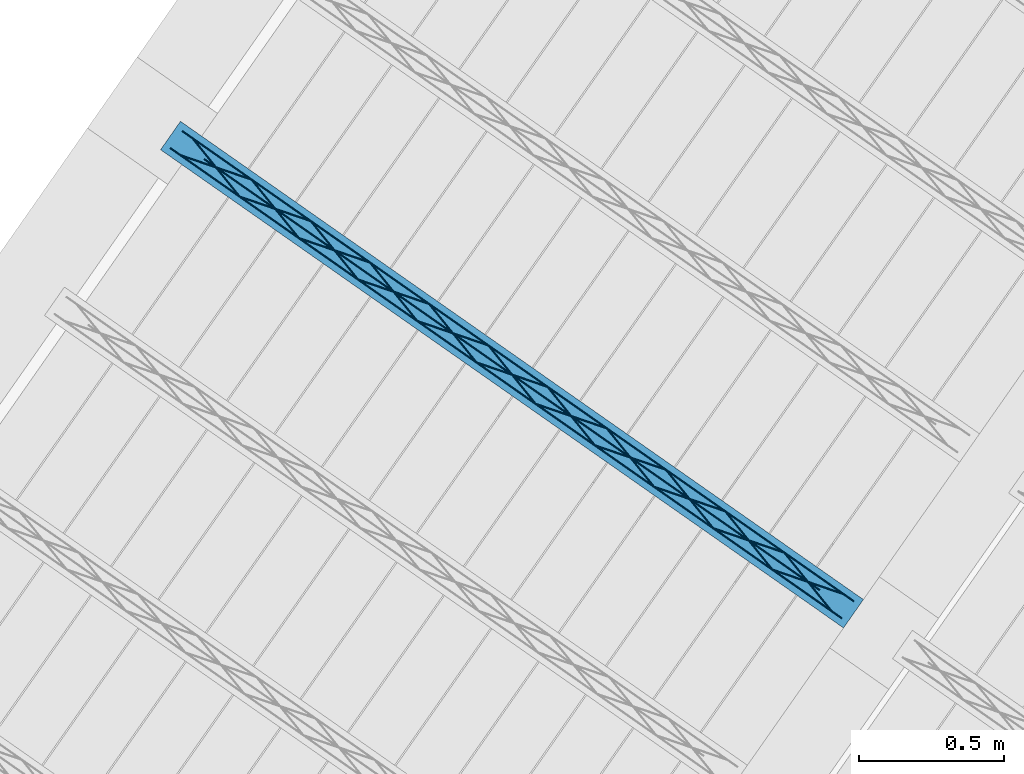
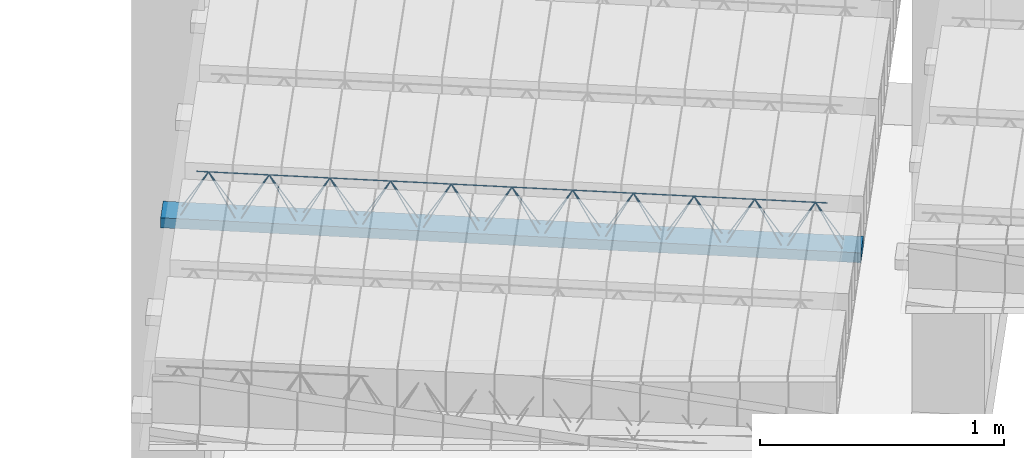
# One storey, part 28 of 80: 1 beam, 1 member.
"""IFC2X3 building model written with IfcOpenShell, lengths in metres."""

import ifcopenshell
import ifcopenshell.guid

model = None  # the IFC model being written
_history = None  # IfcOwnerHistory: only IFC2X3 demands one
_inside = {}  # id of a spatial element -> (the spatial element, [elements in it])
_under = {}  # id of a project, library or spatial element -> (it, [spatial elements below it])
_declared = {}  # id of a project -> (the project, [libraries it declares])
_typed = {}  # id of a type object -> (the type object, [elements of that type])
_made_of = {}  # id of a material, layer set ... -> (it, [elements and type objects made of it])


def new_model(schema):
    """Start an empty IFC model of exactly this schema.

    Asked for "IFC4X3", IfcOpenShell would pick the latest addendum, in which some entities
    have other attributes; the version numbers below select the first issue.
    IFC2X3 requires an IfcOwnerHistory on every rooted entity: one is made here for all.
    """
    global model, _history
    if schema == "IFC4X3":
        model = ifcopenshell.file(schema_version=(4, 3, 0, 0))
    else:
        model = ifcopenshell.file(schema=schema)
    _inside.clear()
    _under.clear()
    _declared.clear()
    _typed.clear()
    _made_of.clear()
    _history = None
    if model.schema == "IFC2X3":
        org = make("IfcOrganization", Name="unknown")
        user = make(
            "IfcPersonAndOrganization",
            ThePerson=make("IfcPerson", FamilyName="unknown"),
            TheOrganization=org,
        )
        app = make(
            "IfcApplication",
            ApplicationDeveloper=org,
            Version="unknown",
            ApplicationFullName="unknown",
            ApplicationIdentifier="unknown",
        )
        _history = make(
            "IfcOwnerHistory",
            OwningUser=user,
            OwningApplication=app,
            ChangeAction="ADDED",
            CreationDate=0,
        )
    return model


def make(cls, **values):
    """One entity of the class cls with the attributes given. An attribute that is None is left unset."""
    return model.create_entity(
        cls, **{name: value for name, value in values.items() if value is not None}
    )


def entity(cls, *values):
    """Any entity or typed value of the class cls, its attributes in the order of the schema. None: left unset."""
    e = model.create_entity(cls)
    for i, value in enumerate(values):
        if value is not None:
            e[i] = value
    return e


def rooted(cls, **values):
    """An entity with a GlobalId (a new one), such as an element, a storey or a relation."""
    return make(cls, GlobalId=ifcopenshell.guid.new(), OwnerHistory=_history, **values)


def si_unit(unit_type, name, prefix=None):
    """IfcSIUnit, for example si_unit("LENGTHUNIT", "METRE", prefix="MILLI")."""
    return make("IfcSIUnit", UnitType=unit_type, Prefix=prefix, Name=name)


def converted_unit(unit_type, name, factor, base, dimensions=None, offset=None):
    """IfcConversionBasedUnit, such as the inch: factor (a typed value) times the base unit."""
    return make(
        "IfcConversionBasedUnit"
        if offset is None
        else "IfcConversionBasedUnitWithOffset",
        ConversionOffset=offset,
        Dimensions=None
        if dimensions is None
        else entity("IfcDimensionalExponents", *dimensions),
        UnitType=unit_type,
        Name=name,
        ConversionFactor=make(
            "IfcMeasureWithUnit", ValueComponent=factor, UnitComponent=base
        ),
    )


def derived_unit(unit_type, elements):
    """IfcDerivedUnit: a product of units, each with its exponent."""
    return make(
        "IfcDerivedUnit",
        Elements=[
            make("IfcDerivedUnitElement", Unit=unit, Exponent=power)
            for unit, power in elements
        ],
        UnitType=unit_type,
    )


def assignment(units):
    """IfcUnitAssignment: the units of a project."""
    return None if units is None else make("IfcUnitAssignment", Units=units)


def point(xyz):
    """IfcCartesianPoint."""
    return None if xyz is None else make("IfcCartesianPoint", Coordinates=xyz)


def direction(xyz):
    """IfcDirection."""
    return None if xyz is None else make("IfcDirection", DirectionRatios=xyz)


def frame(location, z_axis=None, x_axis=None):
    """IfcAxis2Placement3D, a coordinate frame: its origin and axes. An axis left out is left unset."""
    return make(
        "IfcAxis2Placement3D",
        Location=point(location),
        Axis=direction(z_axis),
        RefDirection=direction(x_axis),
    )


def frame_2d(location, x_axis=None):
    """IfcAxis2Placement2D, a coordinate frame in the plane: its origin and x axis."""
    return make(
        "IfcAxis2Placement2D", Location=point(location), RefDirection=direction(x_axis)
    )


def origin():
    """The frame at (0, 0, 0) with its axes left unset."""
    return frame((0.0, 0.0, 0.0))


def origin_2d_with_axis():
    """The frame at (0, 0) in the plane with the x axis (1, 0) written out."""
    return frame_2d((0.0, 0.0), x_axis=(1.0, 0.0))


def place(relative_to, where):
    """IfcLocalPlacement: puts the frame where relative to a parent placement (None: the world)."""
    return make(
        "IfcLocalPlacement", PlacementRelTo=relative_to, RelativePlacement=where
    )


def context(
    kind, dimensions, precision=None, world=None, true_north=None, identifier=None
):
    """IfcGeometricRepresentationContext, for example the 3D "Model" context."""
    return make(
        "IfcGeometricRepresentationContext",
        ContextIdentifier=identifier,
        ContextType=kind,
        CoordinateSpaceDimension=dimensions,
        Precision=precision,
        WorldCoordinateSystem=world,
        TrueNorth=true_north,
    )


def subcontext(parent, identifier, kind, view, scale=None):
    """IfcGeometricRepresentationSubContext, for example "Body" below "Model"."""
    return make(
        "IfcGeometricRepresentationSubContext",
        ContextIdentifier=identifier,
        ContextType=kind,
        ParentContext=parent,
        TargetScale=scale,
        TargetView=view,
    )


def project(units=None, contexts=None):
    """IfcProject with its units and contexts."""
    return rooted(
        "IfcProject",
        Name="project",
        RepresentationContexts=contexts,
        UnitsInContext=assignment(units),
    )


def spatial(cls, under=None, at=None, **own):
    """A site, building, storey or space (cls), placed at a placement, below another one or the project."""
    s = rooted(cls, ObjectPlacement=at, **own)
    if under is not None:
        _under.setdefault(under.id(), (under, []))[1].append(s)
    return s


def profile(cls, at=None, kind="AREA", **sizes):
    """A parametric profile (cls). Its sizes go by their IFC names, for example OverallWidth=200.0."""
    return make(cls, ProfileType=kind, Position=at, **sizes)


def rectangle(**sizes):
    """IfcRectangleProfileDef."""
    return profile("IfcRectangleProfileDef", **sizes)


def circle(**sizes):
    """IfcCircleProfileDef."""
    return profile("IfcCircleProfileDef", **sizes)


def extrude(swept, where, along, depth):
    """IfcExtrudedAreaSolid: the profile swept, set in the frame where, extruded along a direction by depth."""
    return make(
        "IfcExtrudedAreaSolid",
        SweptArea=swept,
        Position=where,
        ExtrudedDirection=direction(along),
        Depth=depth,
    )


def shape(context_of_items, identifier, shape_type, items):
    """IfcShapeRepresentation: the items that make up one representation, for example the "Body"."""
    return make(
        "IfcShapeRepresentation",
        ContextOfItems=context_of_items,
        RepresentationIdentifier=identifier,
        RepresentationType=shape_type,
        Items=items,
    )


def material(Name=None, Category=None):
    """IfcMaterial."""
    return make("IfcMaterial", Name=Name, Category=Category)


def made_of(thing, what):
    """Note that an element or type object is made of a material, layer set ...; save() writes the relation."""
    if what is not None:
        _made_of.setdefault(what.id(), (what, []))[1].append(thing)
    return thing


def type_object(cls, material=None, **own):
    """A type object (cls), such as IfcWallType, which elements share."""
    return made_of(rooted(cls, **own), material)


def element(
    cls,
    number,
    at=None,
    inside=None,
    cuts=None,
    type_object=None,
    material=None,
    context=None,
    identifier="Body",
    shape_type=None,
    held_by="IfcProductDefinitionShape",
    body=None,
    shapes=None,
    **own,
):
    """One element of the class cls, such as IfcWall. Its Tag is "e" and its number.

    at: its placement. inside: the storey or other place that contains it. cuts: it is an
    opening in that element (IfcRelVoidsElement). A single representation is given by context,
    identifier, shape_type and body (its items); several are given by shapes. held_by: the class
    of the entity that holds the representations. save() writes the other relations.
    """
    e = rooted(cls, Tag="e%d" % number, ObjectPlacement=at, **own)
    if body is not None:
        shapes = [shape(context, identifier, shape_type, body)]
    if shapes is not None:
        e.Representation = make(held_by, Representations=shapes)
    if inside is not None:
        _inside.setdefault(inside.id(), (inside, []))[1].append(e)
    if cuts is not None:
        rooted(
            "IfcRelVoidsElement", RelatingBuildingElement=cuts, RelatedOpeningElement=e
        )
    if type_object is not None:
        _typed.setdefault(type_object.id(), (type_object, []))[1].append(e)
    return made_of(e, material)


def aggregate(whole, parts):
    """IfcRelAggregates: a whole, such as a stair, and the parts it consists of."""
    return rooted("IfcRelAggregates", RelatingObject=whole, RelatedObjects=parts)


def save(model, path):
    """Write the relations noted so far, then the file.

    IfcRelAggregates (storeys below a building ...), IfcRelContainedInSpatialStructure (elements
    in a storey), IfcRelDefinesByType, IfcRelAssociatesMaterial and IfcRelDeclares: one each for
    every whole, place, type object, material and project.
    """
    for whole, parts in _under.values():
        aggregate(whole, parts)
    for where, things in _inside.values():
        rooted(
            "IfcRelContainedInSpatialStructure",
            RelatedElements=things,
            RelatingStructure=where,
        )
    for kind, things in _typed.values():
        rooted("IfcRelDefinesByType", RelatedObjects=things, RelatingType=kind)
    for what, things in _made_of.values():
        rooted("IfcRelAssociatesMaterial", RelatedObjects=things, RelatingMaterial=what)
    for by, libraries in _declared.values():
        rooted("IfcRelDeclares", RelatingContext=by, RelatedDefinitions=libraries)
    model.write(path)


model = new_model("IFC2X3")

# Units and contexts
model_context = context("Model", 3, precision=1e-05, world=origin(), true_north=direction((6.123031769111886e-17, 1.0)))
body_context = subcontext(model_context, "Body", "Model", "MODEL_VIEW")
ifc_project = project(units=[si_unit("LENGTHUNIT", "METRE"), si_unit("AREAUNIT", "SQUARE_METRE"), si_unit("VOLUMEUNIT", "CUBIC_METRE"), converted_unit("PLANEANGLEUNIT", "DEGREE", entity("IfcPlaneAngleMeasure", 0.017453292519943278), si_unit("PLANEANGLEUNIT", "RADIAN"), dimensions=[0, 0, 0, 0, 0, 0, 0]), si_unit("MASSUNIT", "GRAM", prefix="KILO"), derived_unit("MASSDENSITYUNIT", [(si_unit("MASSUNIT", "GRAM", prefix="KILO"), 1), (si_unit("LENGTHUNIT", "METRE"), -3)]), derived_unit("IONCONCENTRATIONUNIT", [(si_unit("MASSUNIT", "GRAM", prefix="KILO"), 1), (si_unit("LENGTHUNIT", "METRE"), -3)]), derived_unit("MOMENTOFINERTIAUNIT", [(si_unit("LENGTHUNIT", "METRE"), 4)]), si_unit("TIMEUNIT", "SECOND"), si_unit("FREQUENCYUNIT", "HERTZ"), si_unit("THERMODYNAMICTEMPERATUREUNIT", "DEGREE_CELSIUS"), derived_unit("THERMALTRANSMITTANCEUNIT", [(si_unit("MASSUNIT", "GRAM", prefix="KILO"), 1), (si_unit("THERMODYNAMICTEMPERATUREUNIT", "KELVIN"), -1), (si_unit("TIMEUNIT", "SECOND"), -3)]), derived_unit("THERMALCONDUCTANCEUNIT", [(si_unit("MASSUNIT", "GRAM", prefix="KILO"), 1), (si_unit("THERMODYNAMICTEMPERATUREUNIT", "KELVIN"), -1), (si_unit("TIMEUNIT", "SECOND"), -3), (si_unit("LENGTHUNIT", "METRE"), 1)]), derived_unit("VOLUMETRICFLOWRATEUNIT", [(si_unit("LENGTHUNIT", "METRE", prefix="DECI"), 3), (si_unit("TIMEUNIT", "SECOND"), -1)]), derived_unit("MASSFLOWRATEUNIT", [(si_unit("MASSUNIT", "GRAM", prefix="KILO"), 1), (si_unit("TIMEUNIT", "SECOND"), -1)]), derived_unit("ROTATIONALFREQUENCYUNIT", [(si_unit("TIMEUNIT", "SECOND"), -1)]), si_unit("ELECTRICCURRENTUNIT", "AMPERE"), si_unit("ELECTRICVOLTAGEUNIT", "VOLT"), si_unit("POWERUNIT", "WATT"), si_unit("FORCEUNIT", "NEWTON", prefix="KILO"), si_unit("ILLUMINANCEUNIT", "LUX"), si_unit("LUMINOUSFLUXUNIT", "LUMEN"), si_unit("LUMINOUSINTENSITYUNIT", "CANDELA"), si_unit("ENERGYUNIT", "JOULE"), derived_unit("USERDEFINED", [(si_unit("MASSUNIT", "GRAM", prefix="KILO"), -1), (si_unit("LENGTHUNIT", "METRE"), -2), (si_unit("TIMEUNIT", "SECOND"), 3), (si_unit("LUMINOUSFLUXUNIT", "LUMEN"), 1)]), derived_unit("USERDEFINED", [(si_unit("MASSUNIT", "GRAM", prefix="KILO"), 1), (si_unit("TIMEUNIT", "SECOND"), -3), (si_unit("LENGTHUNIT", "METRE"), 3), (si_unit("ELECTRICCURRENTUNIT", "AMPERE"), -2)]), derived_unit("SOUNDPOWERUNIT", [(si_unit("MASSUNIT", "GRAM", prefix="KILO"), 1), (si_unit("TIMEUNIT", "SECOND"), -3), (si_unit("LENGTHUNIT", "METRE"), 2)]), derived_unit("SOUNDPRESSUREUNIT", [(si_unit("MASSUNIT", "GRAM", prefix="KILO"), 1), (si_unit("LENGTHUNIT", "METRE"), -1), (si_unit("TIMEUNIT", "SECOND"), -2)]), derived_unit("LINEARVELOCITYUNIT", [(si_unit("LENGTHUNIT", "METRE"), 1), (si_unit("TIMEUNIT", "SECOND"), -1)]), si_unit("PRESSUREUNIT", "PASCAL"), derived_unit("USERDEFINED", [(si_unit("MASSUNIT", "GRAM", prefix="KILO"), 1), (si_unit("LENGTHUNIT", "METRE"), -2), (si_unit("TIMEUNIT", "SECOND"), -2)]), derived_unit("LINEARFORCEUNIT", [(si_unit("MASSUNIT", "GRAM", prefix="KILO"), 1), (si_unit("TIMEUNIT", "SECOND"), -2)]), derived_unit("PLANARFORCEUNIT", [(si_unit("MASSUNIT", "GRAM", prefix="KILO"), 1), (si_unit("LENGTHUNIT", "METRE"), -1), (si_unit("TIMEUNIT", "SECOND"), -2)]), derived_unit("SPECIFICHEATCAPACITYUNIT", [(si_unit("THERMODYNAMICTEMPERATUREUNIT", "KELVIN"), -1), (si_unit("LENGTHUNIT", "METRE"), 2), (si_unit("TIMEUNIT", "SECOND"), -2)]), derived_unit("HEATFLUXDENSITYUNIT", [(si_unit("MASSUNIT", "GRAM", prefix="KILO"), 1), (si_unit("TIMEUNIT", "SECOND"), -3)]), derived_unit("HEATINGVALUEUNIT", [(si_unit("LENGTHUNIT", "METRE"), 2), (si_unit("TIMEUNIT", "SECOND"), -2)]), derived_unit("VAPORPERMEABILITYUNIT", [(si_unit("LENGTHUNIT", "METRE"), -1), (si_unit("TIMEUNIT", "SECOND"), 1)]), derived_unit("DYNAMICVISCOSITYUNIT", [(si_unit("MASSUNIT", "GRAM", prefix="KILO"), 1), (si_unit("TIMEUNIT", "SECOND"), -1), (si_unit("LENGTHUNIT", "METRE"), -1)]), derived_unit("THERMALEXPANSIONCOEFFICIENTUNIT", [(si_unit("THERMODYNAMICTEMPERATUREUNIT", "KELVIN"), -1)]), derived_unit("MODULUSOFELASTICITYUNIT", [(si_unit("MASSUNIT", "GRAM", prefix="KILO"), 1), (si_unit("LENGTHUNIT", "METRE"), -1), (si_unit("TIMEUNIT", "SECOND"), -2)]), derived_unit("ISOTHERMALMOISTURECAPACITYUNIT", [(si_unit("MASSUNIT", "GRAM", prefix="KILO"), -1), (si_unit("LENGTHUNIT", "METRE"), 3)]), derived_unit("MOISTUREDIFFUSIVITYUNIT", [(si_unit("TIMEUNIT", "SECOND"), -1), (si_unit("LENGTHUNIT", "METRE"), 2)]), derived_unit("MASSPERLENGTHUNIT", [(si_unit("MASSUNIT", "GRAM", prefix="KILO"), 1), (si_unit("LENGTHUNIT", "METRE"), -1)]), derived_unit("THERMALRESISTANCEUNIT", [(si_unit("MASSUNIT", "GRAM", prefix="KILO"), -1), (si_unit("TIMEUNIT", "SECOND"), 3), (si_unit("THERMODYNAMICTEMPERATUREUNIT", "KELVIN"), 1)]), derived_unit("ACCELERATIONUNIT", [(si_unit("LENGTHUNIT", "METRE"), 1), (si_unit("TIMEUNIT", "SECOND"), -2)]), derived_unit("ANGULARVELOCITYUNIT", [(si_unit("TIMEUNIT", "SECOND"), -1), (si_unit("PLANEANGLEUNIT", "RADIAN"), 1)]), derived_unit("LINEARSTIFFNESSUNIT", [(si_unit("MASSUNIT", "GRAM", prefix="KILO"), 1), (si_unit("TIMEUNIT", "SECOND"), -2)]), derived_unit("WARPINGCONSTANTUNIT", [(si_unit("LENGTHUNIT", "METRE"), 6)]), derived_unit("LINEARMOMENTUNIT", [(si_unit("MASSUNIT", "GRAM", prefix="KILO"), 1), (si_unit("LENGTHUNIT", "METRE"), 1), (si_unit("TIMEUNIT", "SECOND"), -2)]), derived_unit("TORQUEUNIT", [(si_unit("MASSUNIT", "GRAM", prefix="KILO"), 1), (si_unit("LENGTHUNIT", "METRE"), 2), (si_unit("TIMEUNIT", "SECOND"), -2)])], contexts=[model_context])

# Site, building, storey
site_placement = place(None, origin())
site = spatial("IfcSite", under=ifc_project, at=site_placement, Name="Default", CompositionType="ELEMENT")
building_placement = place(site_placement, origin())
building = spatial("IfcBuilding", under=site, at=building_placement, CompositionType="ELEMENT")
storey_placement = place(building_placement, frame((0.0, 0.0, 95.94)))
storey = spatial("IfcBuildingStorey", under=building, at=storey_placement, Name="PB", CompositionType="ELEMENT", Elevation=95.94)

# Member
member_type = type_object("IfcMemberType", Name="Celosía (Vigueta 8 - Paño 2)", PredefinedType="NOTDEFINED")
member_placement = place(storey_placement, origin())
element("IfcMember", 1, at=member_placement, inside=storey, type_object=member_type, Name="Celosía (Vigueta 8 - Paño 2)", context=body_context, shape_type="SweptSolid", body=[
    extrude(circle(Radius=0.0025, at=origin_2d_with_axis()), frame((1.6294747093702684, 6.689422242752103, 2.8449999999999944), z_axis=(0.8191520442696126, -0.5735764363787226, 0.0), x_axis=(-0.5735764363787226, -0.8191520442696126, 0.0)), (0.0, 0.0, 1.0), 2.836532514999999),
    extrude(circle(Radius=0.0025, at=origin_2d_with_axis()), frame((1.747001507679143, 6.651076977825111, 3.069999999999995), z_axis=(0.8191520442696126, -0.5735764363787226, 0.0), x_axis=(-0.5735764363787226, -0.8191520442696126, 0.0)), (0.0, 0.0, 1.0), 2.5999999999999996),
    extrude(circle(Radius=0.0025, at=origin_2d_with_axis()), frame((3.9175844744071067, 5.087270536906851, 2.8449999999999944), z_axis=(-0.3145304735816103, 0.389334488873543, 0.8657304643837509), x_axis=(-0.7778747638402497, -0.6284193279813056, 0.0)), (0.0, 0.0, 1.0), 0.2598961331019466),
    extrude(circle(Radius=0.0025, at=origin_2d_with_axis()), frame((3.712796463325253, 5.230664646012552, 2.8449999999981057), z_axis=(0.47343050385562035, -0.1624017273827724, 0.8657304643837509), x_axis=(-0.3244721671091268, -0.9458952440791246, 0.0)), (0.0, 0.0, 1.0), 0.25989613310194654),
    extrude(circle(Radius=0.0025, at=origin_2d_with_axis()), frame((3.71279646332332, 5.230664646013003, 2.8449999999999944), z_axis=(-0.3145304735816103, 0.389334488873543, 0.8657304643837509), x_axis=(-0.7778747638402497, -0.6284193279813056, 0.0)), (0.0, 0.0, 1.0), 0.2598961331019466),
    extrude(circle(Radius=0.0025, at=origin_2d_with_axis()), frame((3.508008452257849, 5.3740587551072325, 2.8449999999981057), z_axis=(0.47343050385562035, -0.1624017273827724, 0.8657304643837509), x_axis=(-0.3244721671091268, -0.9458952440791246, 0.0)), (0.0, 0.0, 1.0), 0.25989613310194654),
    extrude(circle(Radius=0.0025, at=origin_2d_with_axis()), frame((3.508008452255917, 5.374058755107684, 2.8449999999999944), z_axis=(-0.3145304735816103, 0.389334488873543, 0.8657304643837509), x_axis=(-0.7778747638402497, -0.6284193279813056, 0.0)), (0.0, 0.0, 1.0), 0.2598961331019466),
    extrude(circle(Radius=0.0025, at=origin_2d_with_axis()), frame((3.3032204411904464, 5.517452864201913, 2.8449999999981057), z_axis=(0.47343050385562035, -0.1624017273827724, 0.8657304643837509), x_axis=(-0.3244721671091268, -0.9458952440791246, 0.0)), (0.0, 0.0, 1.0), 0.25989613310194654),
    extrude(circle(Radius=0.0025, at=origin_2d_with_axis()), frame((3.303220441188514, 5.517452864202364, 2.8449999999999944), z_axis=(-0.3145304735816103, 0.389334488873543, 0.8657304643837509), x_axis=(-0.7778747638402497, -0.6284193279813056, 0.0)), (0.0, 0.0, 1.0), 0.2598961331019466),
    extrude(circle(Radius=0.0025, at=origin_2d_with_axis()), frame((3.098432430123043, 5.660846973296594, 2.8449999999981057), z_axis=(0.47343050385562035, -0.1624017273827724, 0.8657304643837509), x_axis=(-0.3244721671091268, -0.9458952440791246, 0.0)), (0.0, 0.0, 1.0), 0.25989613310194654),
    extrude(circle(Radius=0.0025, at=origin_2d_with_axis()), frame((3.0984324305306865, 5.660846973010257, 2.8449999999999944), z_axis=(-0.3145304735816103, 0.389334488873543, 0.8657304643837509), x_axis=(-0.7778747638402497, -0.6284193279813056, 0.0)), (0.0, 0.0, 1.0), 0.2598961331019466),
    extrude(circle(Radius=0.0025, at=origin_2d_with_axis()), frame((2.8936444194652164, 5.804241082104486, 2.8449999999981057), z_axis=(0.47343050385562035, -0.1624017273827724, 0.8657304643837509), x_axis=(-0.3244721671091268, -0.9458952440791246, 0.0)), (0.0, 0.0, 1.0), 0.25989613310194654),
    extrude(circle(Radius=0.0025, at=origin_2d_with_axis()), frame((2.8936444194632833, 5.804241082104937, 2.8449999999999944), z_axis=(-0.3145304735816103, 0.389334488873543, 0.8657304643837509), x_axis=(-0.7778747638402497, -0.6284193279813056, 0.0)), (0.0, 0.0, 1.0), 0.2598961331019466),
    extrude(circle(Radius=0.0025, at=origin_2d_with_axis()), frame((2.6888564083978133, 5.947635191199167, 2.8449999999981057), z_axis=(0.47343050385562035, -0.1624017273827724, 0.8657304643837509), x_axis=(-0.3244721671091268, -0.9458952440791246, 0.0)), (0.0, 0.0, 1.0), 0.25989613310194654),
    extrude(circle(Radius=0.0025, at=origin_2d_with_axis()), frame((2.6888564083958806, 5.947635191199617, 2.8449999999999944), z_axis=(-0.3145304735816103, 0.389334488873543, 0.8657304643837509), x_axis=(-0.7778747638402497, -0.6284193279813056, 0.0)), (0.0, 0.0, 1.0), 0.2598961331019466),
    extrude(circle(Radius=0.0025, at=origin_2d_with_axis()), frame((2.48406839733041, 6.091029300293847, 2.8449999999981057), z_axis=(0.47343050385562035, -0.1624017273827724, 0.8657304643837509), x_axis=(-0.3244721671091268, -0.9458952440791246, 0.0)), (0.0, 0.0, 1.0), 0.25989613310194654),
    extrude(circle(Radius=0.0025, at=origin_2d_with_axis()), frame((2.4840683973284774, 6.091029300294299, 2.8449999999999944), z_axis=(-0.3145304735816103, 0.389334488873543, 0.8657304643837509), x_axis=(-0.7778747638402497, -0.6284193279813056, 0.0)), (0.0, 0.0, 1.0), 0.2598961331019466),
    extrude(circle(Radius=0.0025, at=origin_2d_with_axis()), frame((2.279280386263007, 6.234423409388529, 2.8449999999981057), z_axis=(0.47343050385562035, -0.1624017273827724, 0.8657304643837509), x_axis=(-0.3244721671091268, -0.9458952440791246, 0.0)), (0.0, 0.0, 1.0), 0.25989613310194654),
    extrude(circle(Radius=0.0025, at=origin_2d_with_axis()), frame((2.279280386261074, 6.234423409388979, 2.8449999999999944), z_axis=(-0.3145304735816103, 0.389334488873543, 0.8657304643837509), x_axis=(-0.7778747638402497, -0.6284193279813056, 0.0)), (0.0, 0.0, 1.0), 0.2598961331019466),
    extrude(circle(Radius=0.0025, at=origin_2d_with_axis()), frame((2.0744923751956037, 6.377817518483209, 2.8449999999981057), z_axis=(0.47343050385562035, -0.1624017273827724, 0.8657304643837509), x_axis=(-0.3244721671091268, -0.9458952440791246, 0.0)), (0.0, 0.0, 1.0), 0.25989613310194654),
    extrude(circle(Radius=0.0025, at=origin_2d_with_axis()), frame((2.074492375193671, 6.377817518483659, 2.8449999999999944), z_axis=(-0.3145304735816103, 0.389334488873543, 0.8657304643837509), x_axis=(-0.7778747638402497, -0.6284193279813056, 0.0)), (0.0, 0.0, 1.0), 0.2598961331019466),
    extrude(circle(Radius=0.0025, at=origin_2d_with_axis()), frame((1.8697043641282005, 6.521211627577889, 2.8449999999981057), z_axis=(0.47343050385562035, -0.1624017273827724, 0.8657304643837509), x_axis=(-0.3244721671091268, -0.9458952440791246, 0.0)), (0.0, 0.0, 1.0), 0.25989613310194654),
    extrude(circle(Radius=0.0025, at=origin_2d_with_axis()), frame((1.8697043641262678, 6.5212116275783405, 2.8449999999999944), z_axis=(-0.3145304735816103, 0.389334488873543, 0.8657304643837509), x_axis=(-0.7778747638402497, -0.6284193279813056, 0.0)), (0.0, 0.0, 1.0), 0.2598961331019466),
    extrude(circle(Radius=0.0025, at=origin_2d_with_axis()), frame((1.6649163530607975, 6.664605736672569, 2.8449999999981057), z_axis=(0.47343050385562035, -0.1624017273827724, 0.8657304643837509), x_axis=(-0.3244721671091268, -0.9458952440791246, 0.0)), (0.0, 0.0, 1.0), 0.25989613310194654),
    extrude(circle(Radius=0.0025, at=origin_2d_with_axis()), frame((1.6707722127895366, 6.748401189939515, 2.8449999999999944), z_axis=(0.8191520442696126, -0.5735764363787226, 0.0), x_axis=(-0.5735764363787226, -0.8191520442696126, 0.0)), (0.0, 0.0, 1.0), 2.836532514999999),
    extrude(circle(Radius=0.0025, at=origin_2d_with_axis()), frame((3.958881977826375, 5.146249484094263, 2.8449999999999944), z_axis=(-0.47343050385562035, 0.1624017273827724, 0.8657304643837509), x_axis=(-0.3244721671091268, -0.9458952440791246, 0.0)), (0.0, 0.0, 1.0), 0.25989613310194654),
    extrude(circle(Radius=0.0025, at=origin_2d_with_axis()), frame((3.7540939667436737, 5.289643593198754, 2.8449999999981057), z_axis=(0.3145304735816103, -0.389334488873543, 0.8657304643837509), x_axis=(-0.7778747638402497, -0.6284193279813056, 0.0)), (0.0, 0.0, 1.0), 0.2598961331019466),
    extrude(circle(Radius=0.0025, at=origin_2d_with_axis()), frame((3.7540939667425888, 5.289643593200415, 2.8449999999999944), z_axis=(-0.47343050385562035, 0.1624017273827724, 0.8657304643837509), x_axis=(-0.3244721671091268, -0.9458952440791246, 0.0)), (0.0, 0.0, 1.0), 0.25989613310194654),
    extrude(circle(Radius=0.0025, at=origin_2d_with_axis()), frame((3.54930595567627, 5.433037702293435, 2.8449999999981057), z_axis=(0.3145304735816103, -0.389334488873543, 0.8657304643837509), x_axis=(-0.7778747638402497, -0.6284193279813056, 0.0)), (0.0, 0.0, 1.0), 0.2598961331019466),
    extrude(circle(Radius=0.0025, at=origin_2d_with_axis()), frame((3.549305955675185, 5.4330377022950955, 2.8449999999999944), z_axis=(-0.47343050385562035, 0.1624017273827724, 0.8657304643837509), x_axis=(-0.3244721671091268, -0.9458952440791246, 0.0)), (0.0, 0.0, 1.0), 0.25989613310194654),
    extrude(circle(Radius=0.0025, at=origin_2d_with_axis()), frame((3.3445179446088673, 5.576431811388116, 2.8449999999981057), z_axis=(0.3145304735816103, -0.389334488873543, 0.8657304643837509), x_axis=(-0.7778747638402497, -0.6284193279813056, 0.0)), (0.0, 0.0, 1.0), 0.2598961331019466),
    extrude(circle(Radius=0.0025, at=origin_2d_with_axis()), frame((3.3445179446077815, 5.576431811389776, 2.8449999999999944), z_axis=(-0.47343050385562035, 0.1624017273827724, 0.8657304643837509), x_axis=(-0.3244721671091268, -0.9458952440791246, 0.0)), (0.0, 0.0, 1.0), 0.25989613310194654),
    extrude(circle(Radius=0.0025, at=origin_2d_with_axis()), frame((3.1397299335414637, 5.719825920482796, 2.8449999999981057), z_axis=(0.3145304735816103, -0.389334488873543, 0.8657304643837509), x_axis=(-0.7778747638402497, -0.6284193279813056, 0.0)), (0.0, 0.0, 1.0), 0.2598961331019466),
    extrude(circle(Radius=0.0025, at=origin_2d_with_axis()), frame((3.139729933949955, 5.7198259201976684, 2.8449999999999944), z_axis=(-0.47343050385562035, 0.1624017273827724, 0.8657304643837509), x_axis=(-0.3244721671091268, -0.9458952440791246, 0.0)), (0.0, 0.0, 1.0), 0.25989613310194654),
    extrude(circle(Radius=0.0025, at=origin_2d_with_axis()), frame((2.9349419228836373, 5.863220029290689, 2.8449999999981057), z_axis=(0.3145304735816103, -0.389334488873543, 0.8657304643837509), x_axis=(-0.7778747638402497, -0.6284193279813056, 0.0)), (0.0, 0.0, 1.0), 0.2598961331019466),
    extrude(circle(Radius=0.0025, at=origin_2d_with_axis()), frame((2.9349419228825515, 5.863220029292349, 2.8449999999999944), z_axis=(-0.47343050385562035, 0.1624017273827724, 0.8657304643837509), x_axis=(-0.3244721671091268, -0.9458952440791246, 0.0)), (0.0, 0.0, 1.0), 0.25989613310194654),
    extrude(circle(Radius=0.0025, at=origin_2d_with_axis()), frame((2.730153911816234, 6.006614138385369, 2.8449999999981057), z_axis=(0.3145304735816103, -0.389334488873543, 0.8657304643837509), x_axis=(-0.7778747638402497, -0.6284193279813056, 0.0)), (0.0, 0.0, 1.0), 0.2598961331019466),
    extrude(circle(Radius=0.0025, at=origin_2d_with_axis()), frame((2.7301539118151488, 6.006614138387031, 2.8449999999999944), z_axis=(-0.47343050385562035, 0.1624017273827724, 0.8657304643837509), x_axis=(-0.3244721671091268, -0.9458952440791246, 0.0)), (0.0, 0.0, 1.0), 0.25989613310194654),
    extrude(circle(Radius=0.0025, at=origin_2d_with_axis()), frame((2.525365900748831, 6.1500082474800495, 2.8449999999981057), z_axis=(0.3145304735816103, -0.389334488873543, 0.8657304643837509), x_axis=(-0.7778747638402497, -0.6284193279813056, 0.0)), (0.0, 0.0, 1.0), 0.2598961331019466),
    extrude(circle(Radius=0.0025, at=origin_2d_with_axis()), frame((2.525365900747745, 6.15000824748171, 2.8449999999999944), z_axis=(-0.47343050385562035, 0.1624017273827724, 0.8657304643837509), x_axis=(-0.3244721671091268, -0.9458952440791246, 0.0)), (0.0, 0.0, 1.0), 0.25989613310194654),
    extrude(circle(Radius=0.0025, at=origin_2d_with_axis()), frame((2.3205778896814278, 6.293402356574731, 2.8449999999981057), z_axis=(0.3145304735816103, -0.389334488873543, 0.8657304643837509), x_axis=(-0.7778747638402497, -0.6284193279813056, 0.0)), (0.0, 0.0, 1.0), 0.2598961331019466),
    extrude(circle(Radius=0.0025, at=origin_2d_with_axis()), frame((2.3205778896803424, 6.293402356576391, 2.8449999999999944), z_axis=(-0.47343050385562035, 0.1624017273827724, 0.8657304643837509), x_axis=(-0.3244721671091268, -0.9458952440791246, 0.0)), (0.0, 0.0, 1.0), 0.25989613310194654),
    extrude(circle(Radius=0.0025, at=origin_2d_with_axis()), frame((2.1157898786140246, 6.436796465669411, 2.8449999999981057), z_axis=(0.3145304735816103, -0.389334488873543, 0.8657304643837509), x_axis=(-0.7778747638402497, -0.6284193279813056, 0.0)), (0.0, 0.0, 1.0), 0.2598961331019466),
    extrude(circle(Radius=0.0025, at=origin_2d_with_axis()), frame((2.115789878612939, 6.4367964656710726, 2.8449999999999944), z_axis=(-0.47343050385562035, 0.1624017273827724, 0.8657304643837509), x_axis=(-0.3244721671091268, -0.9458952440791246, 0.0)), (0.0, 0.0, 1.0), 0.25989613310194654),
    extrude(circle(Radius=0.0025, at=origin_2d_with_axis()), frame((1.9110018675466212, 6.580190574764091, 2.8449999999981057), z_axis=(0.3145304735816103, -0.389334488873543, 0.8657304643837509), x_axis=(-0.7778747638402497, -0.6284193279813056, 0.0)), (0.0, 0.0, 1.0), 0.2598961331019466),
    extrude(circle(Radius=0.0025, at=origin_2d_with_axis()), frame((1.911001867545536, 6.580190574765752, 2.8449999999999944), z_axis=(-0.47343050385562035, 0.1624017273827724, 0.8657304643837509), x_axis=(-0.3244721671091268, -0.9458952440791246, 0.0)), (0.0, 0.0, 1.0), 0.25989613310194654),
    extrude(circle(Radius=0.0025, at=origin_2d_with_axis()), frame((1.7062138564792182, 6.723584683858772, 2.8449999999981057), z_axis=(0.3145304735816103, -0.389334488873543, 0.8657304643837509), x_axis=(-0.7778747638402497, -0.6284193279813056, 0.0)), (0.0, 0.0, 1.0), 0.2598961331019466),
])

# Beam
ifc_material = material(Name="Hormigón armado")
beam_placement = place(storey_placement, origin())
element("IfcBeam", 2, at=beam_placement, inside=storey, material=ifc_material, Name="237978", context=body_context, shape_type="SweptSolid", body=[
    extrude(rectangle(XDim=0.04999999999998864, YDim=0.1199999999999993, at=frame_2d((1.7324683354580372e-14, 7.632783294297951e-17), x_axis=(1.0, 0.0))), frame((1.6304638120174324, 6.7326775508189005, 2.8450000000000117), z_axis=(0.8191520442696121, -0.5735764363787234, 0.0), x_axis=(0.0, 0.0, -1.0)), (0.0, 0.0, 1.0), 2.8845325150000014),
])

save(model, "model.ifc")
